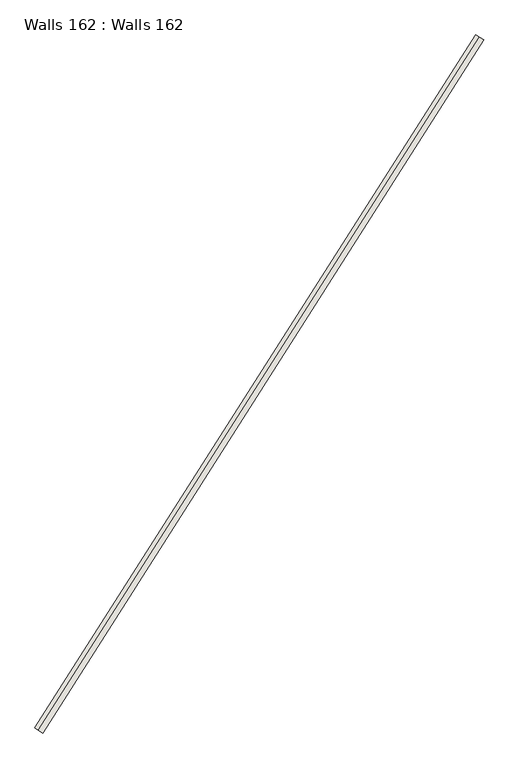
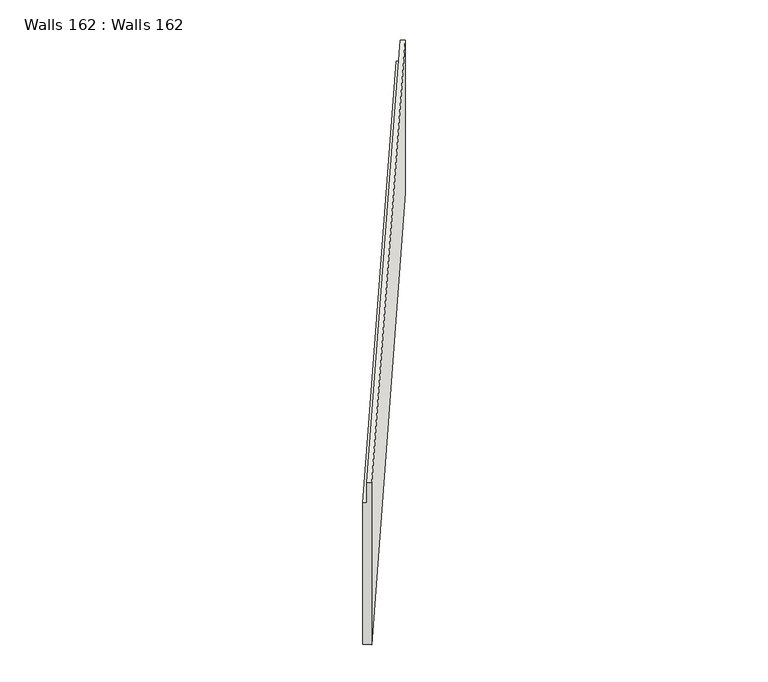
"""IFC4 building model written with IfcOpenShell, lengths in millimetres: wall geometry, Walls 162 : Walls 162."""

from ifc_helpers import new_model, si_unit, origin, place, context, project, spatial, faceted_brep, source, transform, mapped, element, save


def walls_162_walls_162_ab030476(model_context):
    return source(origin(), model_context, "Body", "Brep", [
        faceted_brep([(164190.1364713, 82180.7360862, 649050.0), (164190.1364713, 82180.7360862, 648050.0), (164063.5913634, 82261.2642372, 648050.0), (164063.5913634, 82261.2642372, 641270.0), (164358.864687, 82073.3643241, 641270.0), (164358.864687, 82073.3643241, 649050.0), (180564.7600725, 107912.4616778, 648900.2345488), (180733.4882882, 107805.0899157, 648900.2345488), (180733.4882882, 107805.0899157, 641610.2345488), (180438.2149645, 107992.9898288, 641610.2345488), (180438.2149645, 107992.9898288, 647900.2345488), (180564.7600725, 107912.4616778, 647900.2345488)], [[[0, 1, 2, 3, 4, 5]], [[6, 7, 8, 9, 10, 11]], [[6, 11, 1, 0]], [[11, 10, 2, 1]], [[10, 9, 3, 2]], [[9, 8, 4, 3]], [[8, 7, 5, 4]], [[7, 6, 0, 5]]]),
    ])


if __name__ == "__main__":
    model = new_model("IFC4")
    model_context = context("Model", 3, world=origin())
    ifc_project = project(units=[si_unit("LENGTHUNIT", "METRE", prefix="MILLI")], contexts=[model_context])
    site = spatial("IfcSite", under=ifc_project)
    building = spatial("IfcBuilding", under=site)
    placement = place(None, origin())
    walls_162_walls_162_shape = walls_162_walls_162_ab030476(model_context)
    element("IfcWall", 1, ObjectType="Walls 162 : Walls 162", at=placement, inside=building, context=model_context, shape_type="MappedRepresentation", body=[
        mapped(walls_162_walls_162_shape, transform((0.0, 0.0, 0.0), x_axis=(1.0, 0.0, 0.0), y_axis=(0.0, 1.0, 0.0), z_axis=(0.0, 0.0, 1.0))),
    ])
    save(model, "model.ifc")
